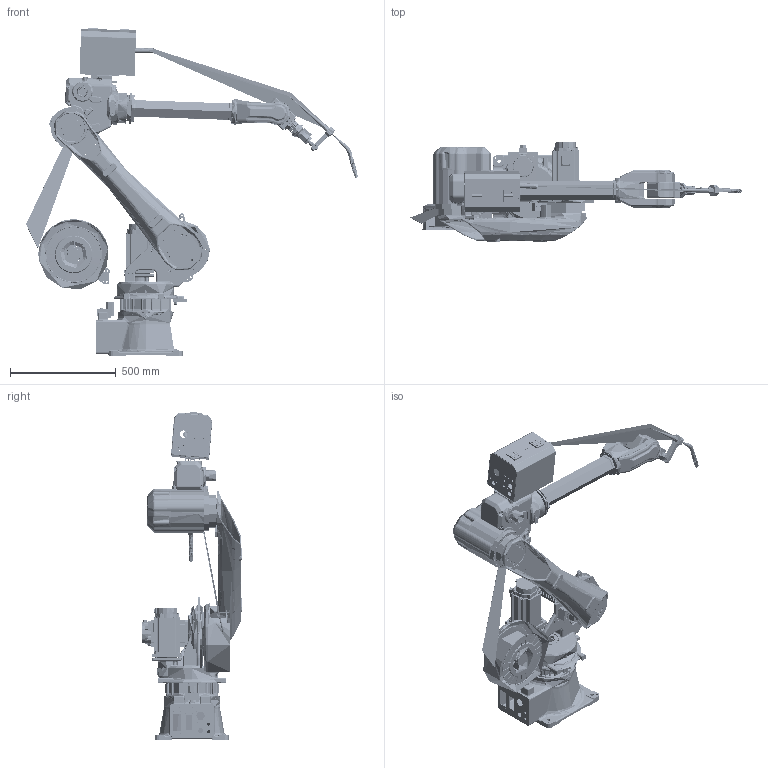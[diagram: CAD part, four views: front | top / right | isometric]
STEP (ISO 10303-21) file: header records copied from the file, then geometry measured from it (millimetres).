
FILE_DESCRIPTION((''),'2;1');
FILE_NAME('LH2100_ASM_1_ASM','2022-11-03T20:44:24',('EBDGC-08'),(''),'CREO PARAMETRIC BY PTC INC, 2021063','CREO PARAMETRIC BY PTC INC, 2021063','');
FILE_SCHEMA(('AUTOMOTIVE_DESIGN { 1 0 10303 214 1 1 1 1 }'));
Products named in the file (13): 00000; 03030; 2; 3; 4; 5; 6; 7; LIANJIEBAN_1_2_1_1_1_1_1; LIANJIEBAN_1_5_1_1_1_1_1; LIANJIEBAN_1_ASM_1_ASM_1_ASM__1_ASM; LH2100_ASM_1_ASM_1_ASM; LH2100_ASM_1_ASM
Assembly tree (12 placements, depth 3):
  LH2100_ASM_1_ASM
    00000
    03030
    2
    3
    4
    5
    6
    7
    LIANJIEBAN_1_ASM_1_ASM_1_ASM__1_ASM
      LIANJIEBAN_1_2_1_1_1_1_1
      LIANJIEBAN_1_5_1_1_1_1_1
    LH2100_ASM_1_ASM_1_ASM
Bounding box: 1567.73 x 474.48 x 1551.55 mm (x, y, z)
Topology: 2 solids, 84 shells, 11698 faces, 32821 edges, 21521 vertices
Faces by surface type: cylinder 5972, plane 3325, cone 801, bspline 698, torus 589, extrusion 240, sphere 73
Entity records: 506405 total; most frequent: CARTESIAN_POINT 212387, ORIENTED_EDGE 64907, DIRECTION 56653, EDGE_CURVE 32596, AXIS2_PLACEMENT_3D 21795, VERTEX_POINT 21529, EDGE_LOOP 13263, VECTOR 13026
